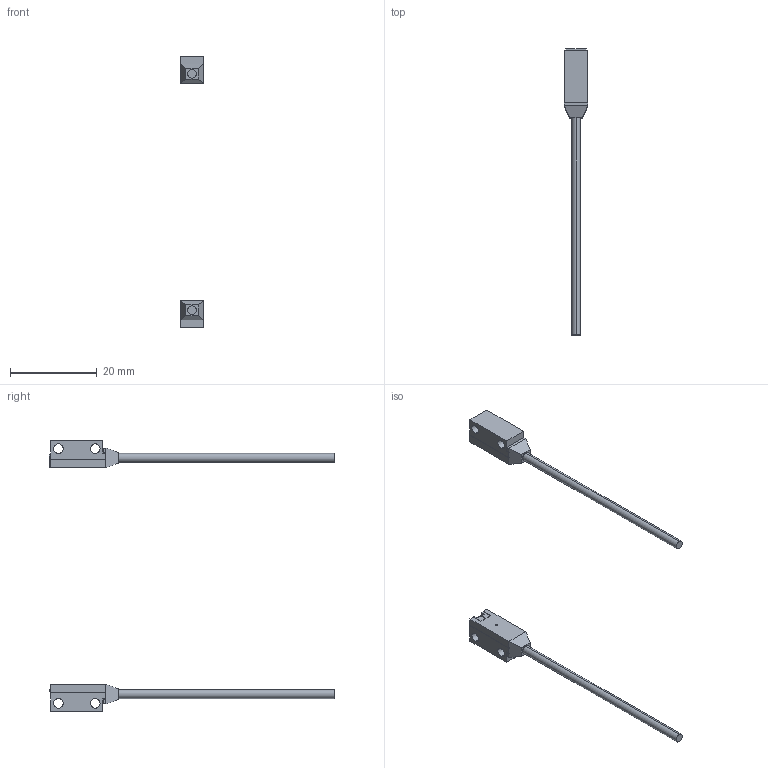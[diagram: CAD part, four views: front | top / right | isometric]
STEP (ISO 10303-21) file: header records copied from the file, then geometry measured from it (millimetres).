
FILE_DESCRIPTION (( 'STEP AP203' ), '1' );
FILE_NAME ('ex-z11a.STEP', '2015-05-07T01:12:03', ( '' ), ( '' ), 'SwSTEP 2.0', 'SolidWorks 2010', '' );
FILE_SCHEMA (( 'CONFIG_CONTROL_DESIGN' ));
Length unit declared in the file: millimetre
Products named in the file (3): ex-z11d; ex-z11e; ex-z11a
Assembly tree (2 placements, depth 2):
  ex-z11a
    ex-z11e
    ex-z11d
Bounding box: 5.5 x 65.9 x 62.5 mm (x, y, z)
Volume: 1178.2 mm3; surface area: 1557.5 mm2
Topology: 2 solids, 2 shells, 117 faces, 301 edges, 192 vertices
Faces by surface type: plane 101, cylinder 16
Entity records: 3800 total; most frequent: CARTESIAN_POINT 615, ORIENTED_EDGE 602, DIRECTION 577, EDGE_CURVE 301, VECTOR 269, LINE 269, VERTEX_POINT 192, AXIS2_PLACEMENT_3D 154
